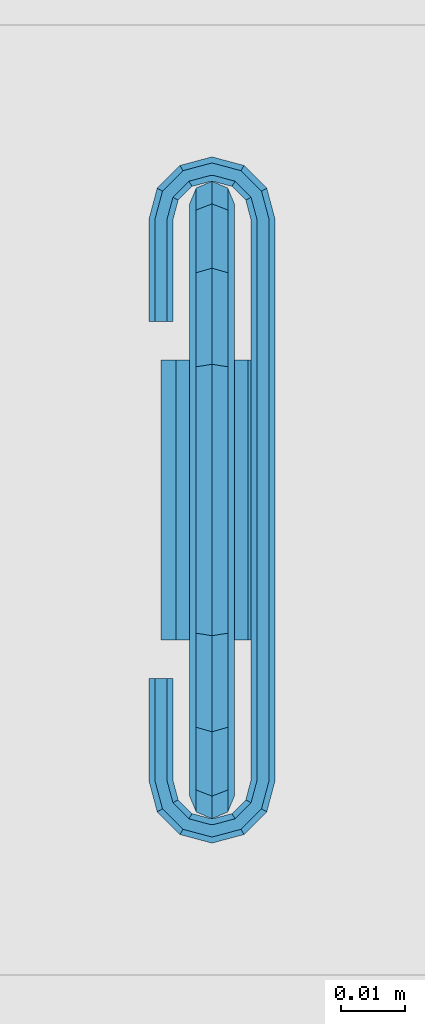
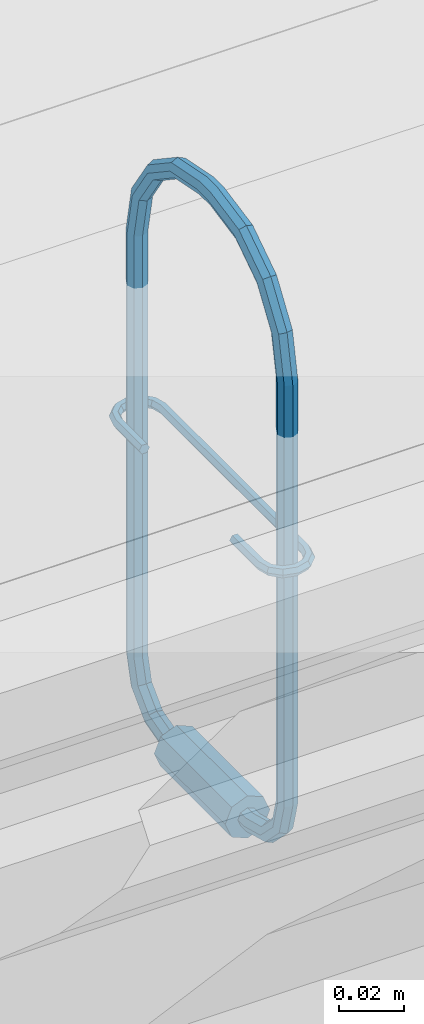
# One storey, part 183 of 230: 1 beam.
"""IFC4X3_ADD2 building model written with IfcOpenShell, lengths in millimetres."""

from ifc_helpers import new_model, si_unit, direction, origin_with_axes, place, context, subcontext, project, spatial, triangles, element, save


model = new_model("IFC4X3_ADD2")

# Units and contexts
model_context = context("Model", 3, precision=1e-05, world=origin_with_axes(), true_north=direction((0.0, 1.0)))
body_context = subcontext(model_context, "Body", "Model", "MODEL_VIEW")
ifc_project = project(units=[si_unit("LENGTHUNIT", "METRE", prefix="MILLI"), si_unit("AREAUNIT", "SQUARE_METRE"), si_unit("VOLUMEUNIT", "CUBIC_METRE"), si_unit("PLANEANGLEUNIT", "RADIAN"), si_unit("TIMEUNIT", "SECOND"), si_unit("MASSUNIT", "GRAM")], contexts=[model_context])

# Site, building, storey
site_placement = place(None, origin_with_axes())
site = spatial("IfcSite", under=ifc_project, at=site_placement, Name="Site", CompositionType="ELEMENT")
building_placement = place(site_placement, origin_with_axes())
building = spatial("IfcBuilding", under=site, at=building_placement, Name="IFC Building Story")
storey_placement = place(building_placement, origin_with_axes())
storey = spatial("IfcBuildingStorey", under=building, at=storey_placement, Name="ETAGE 00 (0)", Elevation=0.0)

# Beam
beam_placement = place(storey_placement, origin_with_axes())
element("IfcBeam", 1, at=beam_placement, inside=storey, Name="LU2", ObjectType="D7", context=body_context, shape_type="Tessellation", body=[
    triangles([(47798.66381835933, -1384.499939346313, 4036.025157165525), (47798.66381835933, -1388.000016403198, 4036.025157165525), (47796.18955078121, -1384.499939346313, 4034.999929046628), (47796.18955078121, -1388.000016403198, 4034.999929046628), (47799.68701171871, -1384.499939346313, 4038.500006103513), (47799.68701171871, -1388.000016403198, 4038.500006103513), (47798.66381835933, -1388.000016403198, 4040.974855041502), (47798.66381835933, -1384.499939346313, 4040.974855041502), (47796.18955078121, -1388.000016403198, 4042.000083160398), (47796.18955078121, -1384.499939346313, 4042.000083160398), (47793.71528320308, -1388.000016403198, 4040.974855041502), (47793.71528320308, -1384.499939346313, 4040.974855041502), (47792.6874389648, -1388.000016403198, 4038.500006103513), (47792.6874389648, -1384.499939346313, 4038.500006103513), (47793.71528320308, -1384.499939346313, 4036.025157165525), (47793.71528320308, -1388.000016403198, 4036.025157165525), (47796.18955078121, -1372.249960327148, 4038.282286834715), (47793.71528320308, -1372.762574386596, 4039.170023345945), (47796.18955078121, -1363.282339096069, 4047.250053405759), (47793.71528320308, -1364.170075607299, 4047.762522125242), (47798.66381835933, -1364.170075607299, 4047.762522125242), (47798.66381835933, -1372.762574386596, 4039.170023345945), (47799.68701171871, -1366.313404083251, 4048.999946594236), (47799.68701171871, -1373.99999885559, 4041.313497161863), (47798.66381835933, -1375.237423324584, 4043.456680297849), (47798.66381835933, -1368.456732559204, 4050.237371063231), (47796.18955078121, -1375.750037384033, 4044.34441680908), (47796.18955078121, -1369.344469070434, 4050.750130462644), (47793.71528320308, -1368.456732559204, 4050.237371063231), (47793.71528320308, -1375.237423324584, 4043.456680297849), (47792.6874389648, -1366.313404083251, 4048.999946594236), (47792.6874389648, -1373.99999885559, 4041.313497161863), (47793.71528320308, -1361.025064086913, 4059.499887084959), (47792.6874389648, -1363.499913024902, 4059.499887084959), (47796.18955078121, -1359.999981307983, 4059.499887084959), (47798.66381835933, -1361.025064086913, 4059.499887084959), (47799.68701171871, -1363.499913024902, 4059.499887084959), (47798.66381835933, -1365.974907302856, 4059.499887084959), (47796.18955078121, -1366.999990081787, 4059.499887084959), (47793.71528320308, -1365.974907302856, 4059.499887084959), (47793.71528320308, -1365.974907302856, 4218.50006561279), (47792.6874389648, -1363.499913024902, 4218.50006561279), (47793.71528320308, -1369.059602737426, 4234.008421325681), (47792.6874389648, -1366.773114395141, 4234.955456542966), (47793.71528320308, -1377.844386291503, 4247.155583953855), (47792.6874389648, -1376.094347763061, 4248.905477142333), (47793.71528320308, -1374.344454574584, 4250.65566101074), (47793.71528320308, -1364.486626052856, 4235.902491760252), (47796.18955078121, -1373.619498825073, 4251.38032608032), (47796.18955078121, -1363.539590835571, 4236.294909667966), (47798.66381835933, -1374.344454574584, 4250.65566101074), (47798.66381835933, -1364.486626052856, 4235.902491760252), (47799.68701171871, -1376.094347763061, 4248.905477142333), (47799.68701171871, -1366.773114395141, 4234.955456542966), (47798.66381835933, -1369.059602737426, 4234.008421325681), (47798.66381835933, -1377.844386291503, 4247.155583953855), (47796.18955078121, -1370.006783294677, 4233.616003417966), (47796.18955078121, -1378.569196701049, 4246.430628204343), (47796.18955078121, -1391.383966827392, 4254.993186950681), (47793.71528320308, -1390.991694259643, 4255.940222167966), (47792.6874389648, -1390.044659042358, 4258.226710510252), (47793.71528320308, -1389.097478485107, 4260.513198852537), (47796.18955078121, -1388.705205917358, 4261.460524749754), (47798.66381835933, -1389.097478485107, 4260.513198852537), (47799.68701171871, -1390.044659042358, 4258.226710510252), (47798.66381835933, -1390.991694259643, 4255.940222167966), (47798.66381835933, -1406.500049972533, 4259.025208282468), (47796.18955078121, -1406.500049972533, 4257.999980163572), (47793.71528320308, -1406.500049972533, 4259.025208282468), (47792.6874389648, -1406.500049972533, 4261.500057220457), (47793.71528320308, -1406.500049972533, 4263.974906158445), (47796.18955078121, -1406.500049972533, 4265.000134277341), (47798.66381835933, -1406.500049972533, 4263.974906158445), (47799.68701171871, -1406.500049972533, 4261.500057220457), (47799.68701171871, -1413.499913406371, 4261.500057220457), (47798.66381835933, -1413.499913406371, 4259.025208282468), (47799.68701171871, -1429.955304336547, 4258.226710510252), (47798.66381835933, -1429.008269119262, 4255.940222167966), (47799.68701171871, -1443.905615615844, 4248.905477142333), (47798.66381835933, -1442.155577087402, 4247.155583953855), (47796.18955078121, -1428.615996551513, 4254.993186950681), (47796.18955078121, -1441.430766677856, 4246.430628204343), (47793.71528320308, -1442.155577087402, 4247.155583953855), (47793.71528320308, -1429.008269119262, 4255.940222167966), (47792.6874389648, -1443.905615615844, 4248.905477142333), (47792.6874389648, -1429.955304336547, 4258.226710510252), (47793.71528320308, -1445.655508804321, 4250.65566101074), (47793.71528320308, -1430.902484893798, 4260.513198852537), (47796.18955078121, -1446.380464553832, 4251.38032608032), (47796.18955078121, -1431.294757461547, 4261.460524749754), (47798.66381835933, -1445.655508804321, 4250.65566101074), (47798.66381835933, -1430.902484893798, 4260.513198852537), (47799.68701171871, -1453.226848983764, 4234.955456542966), (47798.66381835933, -1455.513337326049, 4235.902491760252), (47798.66381835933, -1450.940360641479, 4234.008421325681), (47796.18955078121, -1449.993180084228, 4233.616003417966), (47793.71528320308, -1450.940360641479, 4234.008421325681), (47792.6874389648, -1453.226848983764, 4234.955456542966), (47793.71528320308, -1455.513337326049, 4235.902491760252), (47796.18955078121, -1456.460372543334, 4236.294909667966), (47798.66381835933, -1458.974899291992, 4218.50006561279), (47796.18955078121, -1459.999982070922, 4218.50006561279), (47799.68701171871, -1456.500050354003, 4218.50006561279), (47798.66381835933, -1454.025056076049, 4218.50006561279), (47796.18955078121, -1452.999973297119, 4218.50006561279), (47793.71528320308, -1454.025056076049, 4218.50006561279), (47792.6874389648, -1456.500050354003, 4218.50006561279), (47793.71528320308, -1458.974899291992, 4218.50006561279), (47796.18955078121, -1459.999982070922, 4059.499887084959), (47793.71528320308, -1458.974899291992, 4059.499887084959), (47796.18955078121, -1456.717624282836, 4047.250053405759), (47793.71528320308, -1455.829887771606, 4047.762522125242), (47796.18955078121, -1447.750003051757, 4038.282286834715), (47793.71528320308, -1447.237388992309, 4039.170023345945), (47798.66381835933, -1447.237388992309, 4039.170023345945), (47798.66381835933, -1455.829887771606, 4047.762522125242), (47799.68701171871, -1445.999964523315, 4041.313497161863), (47799.68701171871, -1453.686559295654, 4048.999946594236), (47798.66381835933, -1451.543230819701, 4050.237371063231), (47798.66381835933, -1444.762540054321, 4043.456680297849), (47796.18955078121, -1450.655494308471, 4050.750130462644), (47796.18955078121, -1444.249925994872, 4044.34441680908), (47793.71528320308, -1444.762540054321, 4043.456680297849), (47793.71528320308, -1451.543230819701, 4050.237371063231), (47792.6874389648, -1445.999964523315, 4041.313497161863), (47792.6874389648, -1453.686559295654, 4048.999946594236), (47793.71528320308, -1435.500024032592, 4036.025157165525), (47792.6874389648, -1435.500024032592, 4038.500006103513), (47796.18955078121, -1435.500024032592, 4034.999929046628), (47798.66381835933, -1435.500024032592, 4036.025157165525), (47799.68701171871, -1435.500024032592, 4038.500006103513), (47798.66381835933, -1435.500024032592, 4040.974855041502), (47796.18955078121, -1435.500024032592, 4042.000083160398), (47793.71528320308, -1435.500024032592, 4040.974855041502), (47793.71528320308, -1431.999946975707, 4040.974855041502), (47792.6874389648, -1431.999946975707, 4038.500006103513), (47796.18955078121, -1431.999946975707, 4042.000083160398), (47798.66381835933, -1431.999946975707, 4040.974855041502), (47799.68701171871, -1431.999946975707, 4038.500006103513), (47798.66381835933, -1431.999946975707, 4036.025157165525), (47796.18955078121, -1431.999946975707, 4034.999929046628), (47793.71528320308, -1431.999946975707, 4036.025157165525), (47804.18906249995, -1431.999946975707, 4038.500006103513), (47796.18955078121, -1431.999946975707, 4046.500099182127), (47790.53408203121, -1431.999946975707, 4044.156928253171), (47788.19003906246, -1431.999946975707, 4038.500006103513), (47801.84501953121, -1431.999946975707, 4044.156928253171), (47790.53408203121, -1431.999946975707, 4032.843083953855), (47796.18955078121, -1431.999946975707, 4030.4999130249), (47801.84501953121, -1431.999946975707, 4032.843083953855), (47801.84501953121, -1388.000016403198, 4032.843083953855), (47796.18955078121, -1388.000016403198, 4030.4999130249), (47804.18906249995, -1388.000016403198, 4038.500006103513), (47801.84501953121, -1388.000016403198, 4044.156928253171), (47796.18955078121, -1388.000016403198, 4046.500099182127), (47790.53408203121, -1388.000016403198, 4044.156928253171), (47788.19003906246, -1388.000016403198, 4038.500006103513), (47790.53408203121, -1388.000016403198, 4032.843083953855), (47792.6874389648, -1456.500050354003, 4059.499887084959), (47793.71528320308, -1454.025056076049, 4059.499887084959), (47796.18955078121, -1452.999973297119, 4059.499887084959), (47798.66381835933, -1454.025056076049, 4059.499887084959), (47799.68701171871, -1456.500050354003, 4059.499887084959), (47798.66381835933, -1458.974899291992, 4059.499887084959), (47798.66381835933, -1413.499913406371, 4263.974906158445), (47796.18955078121, -1413.499913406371, 4265.000134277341), (47793.71528320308, -1413.499913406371, 4263.974906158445), (47792.6874389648, -1413.499913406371, 4261.500057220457), (47793.71528320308, -1413.499913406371, 4259.025208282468), (47796.18955078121, -1413.499913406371, 4257.999980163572), (47796.18955078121, -1366.999990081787, 4218.50006561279), (47798.66381835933, -1365.974907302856, 4218.50006561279), (47799.68701171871, -1363.499913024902, 4218.50006561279), (47798.66381835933, -1361.025064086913, 4218.50006561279), (47796.18955078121, -1359.999981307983, 4218.50006561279), (47793.71528320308, -1361.025064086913, 4218.50006561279), (47790.08759765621, -1365.940025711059, 4149.999886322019), (47790.08759765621, -1381.999946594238, 4149.999886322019), (47789.13881835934, -1365.940025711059, 4148.354637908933), (47789.13881835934, -1381.999946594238, 4148.354637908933), (47790.88289794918, -1362.970003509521, 4149.999886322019), (47790.06434326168, -1362.49503250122, 4148.354637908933), (47792.58511962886, -1359.973093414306, 4148.354637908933), (47793.0595092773, -1360.795862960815, 4149.999886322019), (47792.58511962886, -1359.973093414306, 4151.645425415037), (47790.06434326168, -1362.49503250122, 4151.645425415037), (47796.02677001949, -1359.050039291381, 4151.645425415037), (47796.02677001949, -1357.150009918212, 4151.645425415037), (47791.63168945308, -1358.327554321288, 4151.645425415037), (47787.24125976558, -1454.059937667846, 4151.645425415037), (47790.06434326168, -1457.504930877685, 4151.645425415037), (47789.13881835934, -1454.059937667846, 4151.645425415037), (47787.24125976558, -1438.000016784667, 4151.645425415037), (47788.41793212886, -1458.455018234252, 4151.645425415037), (47789.13881835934, -1438.000016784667, 4151.645425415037), (47791.63168945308, -1461.672409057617, 4151.645425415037), (47796.02677001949, -1460.949924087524, 4151.645425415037), (47792.58511962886, -1460.026869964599, 4151.645425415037), (47796.02677001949, -1462.849953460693, 4151.645425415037), (47787.24125976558, -1365.940025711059, 4151.645425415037), (47788.41793212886, -1361.544945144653, 4151.645425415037), (47787.24125976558, -1381.999946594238, 4151.645425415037), (47789.13881835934, -1365.940025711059, 4151.645425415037), (47789.13881835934, -1381.999946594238, 4151.645425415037), (47799.79398193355, -1460.026869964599, 4151.645425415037), (47800.74276123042, -1461.672409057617, 4151.645425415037), (47803.96116943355, -1458.455018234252, 4151.645425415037), (47796.34768066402, -1462.849953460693, 4151.645425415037), (47796.34768066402, -1460.949924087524, 4151.645425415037), (47802.31475830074, -1457.504930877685, 4151.645425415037), (47805.13784179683, -1454.059937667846, 4151.645425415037), (47803.24028320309, -1454.059937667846, 4151.645425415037), (47803.24028320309, -1365.940025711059, 4151.645425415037), (47800.74276123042, -1358.327554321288, 4151.645425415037), (47799.79398193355, -1359.973093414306, 4151.645425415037), (47803.96116943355, -1361.544945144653, 4151.645425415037), (47796.34768066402, -1357.150009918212, 4151.645425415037), (47796.34768066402, -1359.050039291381, 4151.645425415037), (47805.13784179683, -1365.940025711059, 4151.645425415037), (47802.31475830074, -1362.49503250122, 4151.645425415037), (47787.24125976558, -1438.000016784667, 4148.354637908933), (47789.13881835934, -1438.000016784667, 4148.354637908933), (47790.08759765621, -1438.000016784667, 4149.999886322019), (47786.2878295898, -1438.000016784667, 4149.999886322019), (47790.08759765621, -1454.059937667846, 4149.999886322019), (47789.13881835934, -1454.059937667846, 4148.354637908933), (47791.63168945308, -1461.672409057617, 4148.354637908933), (47796.02677001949, -1460.949924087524, 4148.354637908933), (47796.02677001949, -1462.849953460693, 4148.354637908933), (47787.24125976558, -1365.940025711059, 4148.354637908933), (47787.24125976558, -1381.999946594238, 4148.354637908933), (47788.41793212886, -1361.544945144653, 4148.354637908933), (47791.63168945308, -1358.327554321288, 4148.354637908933), (47796.02677001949, -1359.050039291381, 4148.354637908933), (47796.02677001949, -1357.150009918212, 4148.354637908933), (47787.24125976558, -1454.059937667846, 4148.354637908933), (47790.06434326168, -1457.504930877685, 4148.354637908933), (47788.41793212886, -1458.455018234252, 4148.354637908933), (47792.58511962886, -1460.026869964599, 4148.354637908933), (47799.79398193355, -1359.973093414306, 4148.354637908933), (47800.74276123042, -1358.327554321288, 4148.354637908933), (47803.96116943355, -1361.544945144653, 4148.354637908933), (47796.34768066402, -1357.150009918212, 4148.354637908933), (47796.34768066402, -1359.050039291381, 4148.354637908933), (47802.31475830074, -1362.49503250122, 4148.354637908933), (47805.13784179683, -1365.940025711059, 4148.354637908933), (47803.24028320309, -1365.940025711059, 4148.354637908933), (47803.24028320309, -1454.059937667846, 4148.354637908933), (47800.74276123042, -1461.672409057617, 4148.354637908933), (47799.79398193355, -1460.026869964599, 4148.354637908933), (47803.96116943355, -1458.455018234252, 4148.354637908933), (47796.34768066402, -1462.849953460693, 4148.354637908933), (47796.34768066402, -1460.949924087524, 4148.354637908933), (47805.13784179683, -1454.059937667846, 4148.354637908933), (47802.31475830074, -1457.504930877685, 4148.354637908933), (47786.2878295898, -1454.059937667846, 4149.999886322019), (47787.59472656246, -1458.929989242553, 4149.999886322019), (47791.15729980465, -1462.495033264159, 4149.999886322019), (47796.02677001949, -1463.80004081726, 4149.999886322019), (47796.34768066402, -1463.80004081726, 4149.999886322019), (47801.21715087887, -1462.495033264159, 4149.999886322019), (47804.78437499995, -1458.929989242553, 4149.999886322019), (47806.09127197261, -1454.059937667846, 4149.999886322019), (47806.09127197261, -1365.940025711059, 4149.999886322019), (47804.78437499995, -1361.069974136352, 4149.999886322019), (47801.21715087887, -1357.504930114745, 4149.999886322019), (47796.34768066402, -1356.199922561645, 4149.999886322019), (47796.02677001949, -1356.199922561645, 4149.999886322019), (47791.15729980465, -1357.504930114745, 4149.999886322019), (47787.59472656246, -1361.069974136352, 4149.999886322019), (47786.2878295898, -1365.940025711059, 4149.999886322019), (47786.2878295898, -1381.999946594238, 4149.999886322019), (47796.02677001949, -1359.999981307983, 4149.999886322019), (47796.34768066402, -1359.999981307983, 4149.999886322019), (47799.31959228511, -1360.795862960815, 4149.999886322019), (47801.49155273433, -1362.970003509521, 4149.999886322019), (47802.2868530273, -1365.940025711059, 4149.999886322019), (47802.2868530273, -1454.059937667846, 4149.999886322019), (47801.49155273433, -1457.029959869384, 4149.999886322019), (47799.31959228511, -1459.204245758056, 4149.999886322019), (47796.34768066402, -1459.999982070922, 4149.999886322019), (47796.02677001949, -1459.999982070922, 4149.999886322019), (47793.0595092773, -1459.204245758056, 4149.999886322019), (47790.88289794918, -1457.029959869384, 4149.999886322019)], [[1, 2, 3], [4, 3, 2], [5, 6, 1], [2, 1, 6], [6, 5, 7], [8, 7, 5], [7, 8, 9], [10, 9, 8], [9, 10, 11], [12, 11, 10], [11, 12, 13], [14, 13, 12], [15, 16, 14], [13, 14, 16], [3, 4, 15], [16, 15, 4], [17, 3, 18], [15, 18, 3], [19, 17, 20], [18, 20, 17], [21, 22, 17], [17, 19, 21], [23, 24, 22], [22, 21, 23], [24, 23, 25], [26, 25, 23], [25, 26, 27], [28, 27, 26], [27, 28, 29], [29, 30, 27], [30, 29, 31], [31, 32, 30], [20, 18, 31], [32, 31, 18], [33, 20, 34], [31, 34, 20], [35, 19, 33], [20, 33, 19], [36, 21, 19], [19, 35, 36], [37, 23, 21], [21, 36, 37], [23, 37, 26], [38, 26, 37], [26, 38, 28], [39, 28, 38], [28, 39, 40], [40, 29, 28], [29, 40, 34], [34, 31, 29], [40, 41, 42], [42, 34, 40], [41, 43, 44], [44, 42, 41], [43, 45, 46], [46, 44, 43], [47, 48, 46], [44, 46, 48], [49, 50, 47], [48, 47, 50], [51, 52, 50], [50, 49, 51], [53, 54, 52], [52, 51, 53], [54, 53, 55], [56, 55, 53], [55, 56, 57], [58, 57, 56], [57, 58, 45], [45, 43, 57], [58, 59, 60], [60, 45, 58], [45, 60, 61], [61, 46, 45], [62, 47, 61], [46, 61, 47], [63, 49, 62], [47, 62, 49], [64, 51, 49], [49, 63, 64], [65, 53, 51], [51, 64, 65], [53, 65, 56], [66, 56, 65], [56, 66, 58], [59, 58, 66], [66, 67, 59], [68, 59, 67], [59, 68, 69], [69, 60, 59], [60, 69, 70], [70, 61, 60], [71, 62, 70], [61, 70, 62], [72, 63, 71], [62, 71, 63], [73, 64, 63], [63, 72, 73], [74, 65, 64], [64, 73, 74], [65, 74, 66], [67, 66, 74], [74, 75, 67], [76, 67, 75], [75, 77, 76], [78, 76, 77], [77, 79, 78], [80, 78, 79], [78, 80, 81], [82, 81, 80], [81, 82, 83], [83, 84, 81], [84, 83, 85], [85, 86, 84], [87, 88, 85], [86, 85, 88], [89, 90, 87], [88, 87, 90], [91, 92, 90], [90, 89, 91], [79, 77, 92], [92, 91, 79], [93, 79, 91], [91, 94, 93], [79, 93, 80], [95, 80, 93], [80, 95, 82], [96, 82, 95], [82, 96, 97], [97, 83, 82], [83, 97, 98], [98, 85, 83], [99, 87, 98], [85, 98, 87], [100, 89, 99], [87, 99, 89], [94, 91, 89], [89, 100, 94], [101, 94, 100], [100, 102, 101], [103, 93, 94], [94, 101, 103], [93, 103, 95], [104, 95, 103], [95, 104, 96], [105, 96, 104], [96, 105, 106], [106, 97, 96], [97, 106, 107], [107, 98, 97], [108, 99, 107], [98, 107, 99], [102, 100, 108], [99, 108, 100], [109, 102, 110], [108, 110, 102], [111, 109, 112], [110, 112, 109], [113, 111, 114], [112, 114, 111], [115, 116, 111], [111, 113, 115], [117, 118, 116], [116, 115, 117], [118, 117, 119], [120, 119, 117], [119, 120, 121], [122, 121, 120], [121, 122, 123], [123, 124, 121], [124, 123, 125], [125, 126, 124], [114, 112, 125], [126, 125, 112], [127, 114, 128], [125, 128, 114], [129, 113, 127], [114, 127, 113], [130, 115, 113], [113, 129, 130], [131, 117, 115], [115, 130, 131], [117, 131, 120], [132, 120, 131], [120, 132, 122], [133, 122, 132], [122, 133, 134], [134, 123, 122], [123, 134, 128], [128, 125, 123], [134, 135, 136], [136, 128, 134], [133, 137, 134], [135, 134, 137], [132, 138, 137], [137, 133, 132], [131, 139, 132], [138, 132, 139], [139, 131, 130], [130, 140, 139], [140, 130, 141], [129, 141, 130], [141, 129, 127], [127, 142, 141], [142, 127, 136], [128, 136, 127], [138, 139, 143], [135, 137, 144], [144, 145, 135], [146, 136, 135], [146, 135, 145], [147, 137, 138], [137, 147, 144], [138, 143, 147], [148, 136, 146], [142, 149, 141], [142, 136, 148], [148, 149, 142], [150, 143, 139], [139, 140, 150], [141, 150, 140], [150, 141, 149], [151, 150, 152], [149, 152, 150], [153, 143, 151], [150, 151, 143], [143, 153, 147], [154, 147, 153], [147, 154, 144], [155, 144, 154], [144, 155, 145], [156, 145, 155], [145, 156, 146], [157, 146, 156], [158, 148, 157], [146, 157, 148], [152, 149, 158], [148, 158, 149], [11, 13, 157], [7, 9, 155], [155, 154, 7], [153, 6, 7], [153, 7, 154], [156, 9, 11], [9, 156, 155], [11, 157, 156], [151, 6, 153], [2, 152, 4], [2, 6, 151], [151, 152, 2], [158, 157, 13], [13, 16, 158], [4, 158, 16], [158, 4, 152], [112, 110, 126], [159, 126, 110], [160, 124, 126], [126, 159, 160], [161, 121, 124], [124, 160, 161], [162, 119, 161], [121, 161, 119], [163, 118, 162], [119, 162, 118], [118, 163, 164], [164, 116, 118], [116, 164, 109], [109, 111, 116], [164, 101, 102], [102, 109, 164], [163, 103, 164], [101, 164, 103], [103, 163, 104], [162, 104, 163], [104, 162, 105], [161, 105, 162], [105, 161, 160], [160, 106, 105], [106, 160, 159], [159, 107, 106], [110, 108, 107], [107, 159, 110], [77, 75, 165], [165, 92, 77], [92, 165, 166], [166, 90, 92], [90, 166, 88], [167, 88, 166], [88, 167, 86], [168, 86, 167], [169, 84, 86], [86, 168, 169], [170, 81, 84], [84, 169, 170], [76, 78, 170], [81, 170, 78], [67, 76, 68], [170, 68, 76], [68, 170, 169], [169, 69, 68], [69, 169, 168], [168, 70, 69], [167, 71, 70], [70, 168, 167], [166, 72, 71], [71, 167, 166], [165, 73, 166], [72, 166, 73], [75, 74, 165], [73, 165, 74], [171, 57, 43], [43, 41, 171], [172, 55, 171], [57, 171, 55], [173, 54, 172], [55, 172, 54], [54, 173, 174], [174, 52, 54], [52, 174, 175], [175, 50, 52], [50, 175, 48], [176, 48, 175], [48, 176, 44], [42, 44, 176], [176, 33, 34], [34, 42, 176], [175, 35, 176], [33, 176, 35], [174, 36, 35], [35, 175, 174], [173, 37, 174], [36, 174, 37], [37, 173, 38], [172, 38, 173], [38, 172, 39], [171, 39, 172], [39, 171, 41], [41, 40, 39], [18, 15, 32], [14, 32, 15], [12, 30, 32], [32, 14, 12], [10, 27, 30], [30, 12, 10], [8, 25, 10], [27, 10, 25], [5, 24, 8], [25, 8, 24], [24, 5, 1], [1, 22, 24], [22, 1, 3], [3, 17, 22], [177, 178, 179], [180, 179, 178], [181, 177, 179], [179, 182, 181], [183, 184, 181], [181, 182, 183], [184, 185, 181], [186, 181, 185], [187, 188, 189], [190, 191, 192], [190, 192, 193], [190, 194, 191], [195, 193, 192], [196, 197, 198], [198, 191, 194], [199, 197, 196], [196, 198, 194], [200, 186, 201], [202, 203, 200], [204, 203, 202], [200, 203, 186], [185, 189, 201], [201, 186, 185], [189, 185, 187], [205, 206, 207], [197, 199, 208], [208, 209, 197], [209, 206, 205], [206, 209, 208], [210, 207, 211], [207, 210, 205], [212, 211, 213], [211, 212, 210], [214, 215, 216], [217, 188, 187], [187, 218, 217], [218, 215, 214], [214, 217, 218], [213, 219, 220], [219, 213, 211], [220, 216, 215], [216, 220, 219], [195, 221, 193], [222, 195, 223], [193, 221, 224], [195, 222, 221], [223, 225, 226], [226, 222, 223], [227, 228, 229], [230, 182, 179], [230, 179, 231], [230, 232, 182], [180, 231, 179], [233, 234, 183], [183, 182, 232], [235, 234, 233], [233, 183, 232], [236, 237, 238], [221, 226, 236], [222, 226, 221], [236, 226, 237], [239, 227, 238], [238, 237, 239], [227, 239, 228], [240, 241, 242], [243, 234, 235], [243, 244, 234], [244, 243, 241], [240, 244, 241], [245, 242, 246], [242, 245, 240], [247, 246, 248], [246, 247, 245], [249, 250, 251], [252, 229, 228], [228, 253, 252], [253, 250, 249], [249, 252, 253], [248, 254, 255], [254, 248, 246], [255, 251, 250], [251, 255, 254], [221, 236, 256], [256, 224, 221], [190, 193, 256], [224, 256, 193], [257, 194, 256], [190, 256, 194], [238, 257, 256], [256, 236, 238], [227, 258, 238], [257, 238, 258], [258, 196, 194], [194, 257, 258], [259, 199, 196], [196, 258, 259], [260, 208, 259], [199, 259, 208], [261, 206, 260], [208, 260, 206], [249, 261, 260], [260, 252, 249], [252, 260, 259], [259, 229, 252], [229, 259, 227], [258, 227, 259], [251, 262, 261], [261, 249, 251], [262, 207, 261], [206, 261, 207], [263, 211, 207], [207, 262, 263], [263, 264, 211], [219, 211, 264], [219, 264, 216], [265, 216, 264], [264, 246, 242], [242, 265, 264], [264, 263, 254], [254, 246, 264], [254, 263, 251], [262, 251, 263], [265, 242, 266], [241, 266, 242], [216, 265, 266], [266, 214, 216], [214, 266, 267], [267, 217, 214], [217, 267, 268], [268, 188, 217], [188, 268, 189], [269, 189, 268], [268, 235, 233], [233, 269, 268], [267, 243, 268], [235, 268, 243], [266, 241, 267], [243, 267, 241], [269, 233, 232], [232, 270, 269], [189, 269, 201], [270, 201, 269], [201, 270, 271], [271, 200, 201], [202, 200, 272], [271, 272, 200], [202, 180, 204], [231, 202, 272], [204, 180, 178], [202, 231, 180], [230, 231, 271], [272, 271, 231], [270, 232, 271], [230, 271, 232], [178, 177, 203], [203, 204, 178], [177, 181, 203], [186, 203, 181], [234, 273, 184], [184, 183, 234], [273, 187, 184], [185, 184, 187], [274, 218, 273], [187, 273, 218], [275, 215, 218], [218, 274, 275], [276, 220, 215], [215, 275, 276], [213, 220, 276], [276, 277, 213], [212, 213, 277], [277, 278, 212], [210, 212, 279], [278, 279, 212], [210, 279, 205], [280, 205, 279], [205, 280, 209], [281, 209, 280], [209, 281, 197], [282, 197, 281], [197, 282, 283], [283, 198, 197], [198, 283, 284], [284, 191, 198], [284, 225, 192], [192, 191, 284], [225, 223, 192], [195, 192, 223], [225, 284, 226], [237, 226, 284], [283, 239, 284], [237, 284, 239], [282, 228, 283], [239, 283, 228], [281, 253, 228], [228, 282, 281], [280, 250, 253], [253, 281, 280], [279, 255, 250], [250, 280, 279], [248, 255, 279], [279, 278, 248], [247, 248, 277], [278, 277, 248], [245, 247, 276], [277, 276, 247], [245, 276, 240], [275, 240, 276], [240, 275, 244], [274, 244, 275], [244, 274, 273], [273, 234, 244]]),
])

save(model, "model.ifc")
